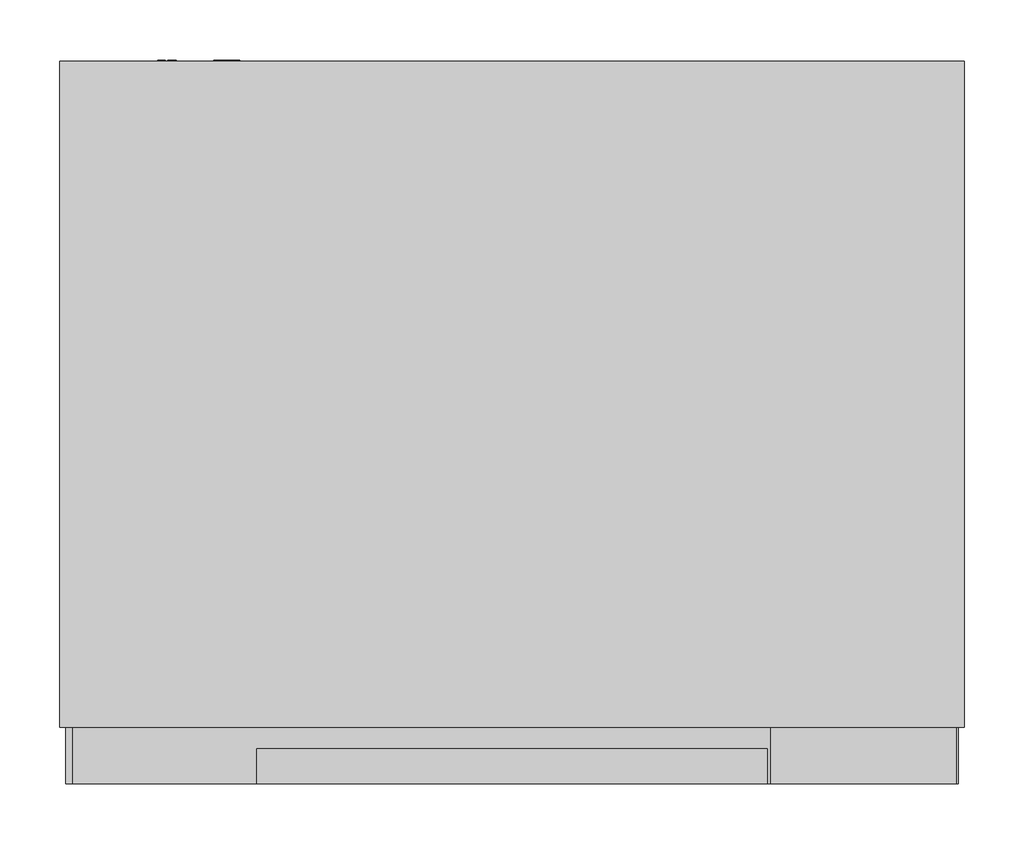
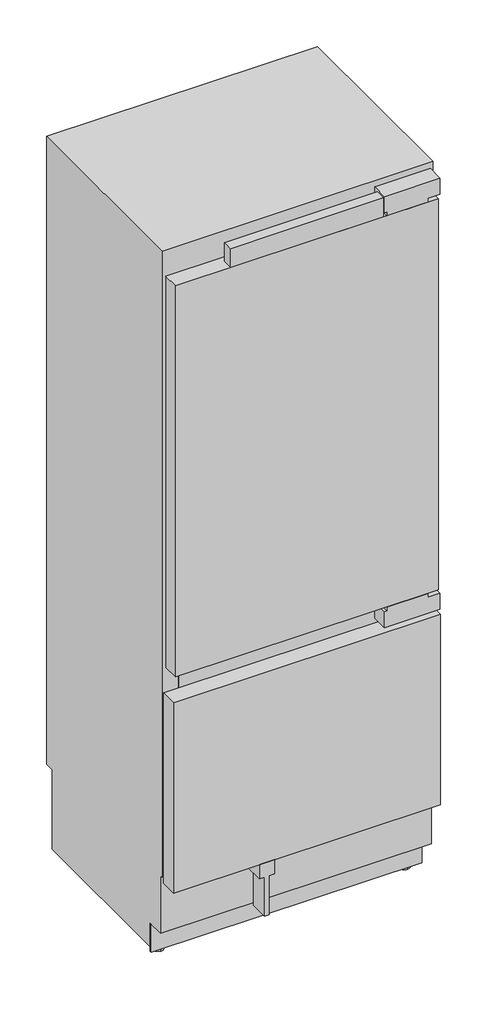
# Not in any storey: 1 proxy.
"""IFC4 building model written with IfcOpenShell, lengths in millimetres."""

from ifc_helpers import new_model, si_unit, origin, place, context, project, spatial, transform, mapped, element, save
from components import specialty_equipment_cda442a2

model = new_model("IFC4")

# Units and contexts
model_context = context("Model", 3, world=origin())
ifc_project = project(units=[si_unit("LENGTHUNIT", "METRE", prefix="MILLI")], contexts=[model_context])

# Site, building
site = spatial("IfcSite", under=ifc_project)
building = spatial("IfcBuilding", under=site)

# Proxy
placement = place(None, origin())
specialty_equipment_shape = specialty_equipment_cda442a2(model_context)
element("IfcBuildingElementProxy", 1, Name="11271080_CN_KF2801VI_R : 38280101_CN_11271080_KF2801VI_R", ObjectType="11271080_CN_KF2801VI_R : 38280101_CN_11271080_KF2801VI_R", at=placement, inside=building, context=model_context, shape_type="MappedRepresentation", body=[
    mapped(specialty_equipment_shape, transform((0.0, 0.0, 0.0), x_axis=(1.0, 0.0, 0.0), y_axis=(0.0, 1.0, 0.0), z_axis=(0.0, 0.0, 1.0))),
])

save(model, "model.ifc")
